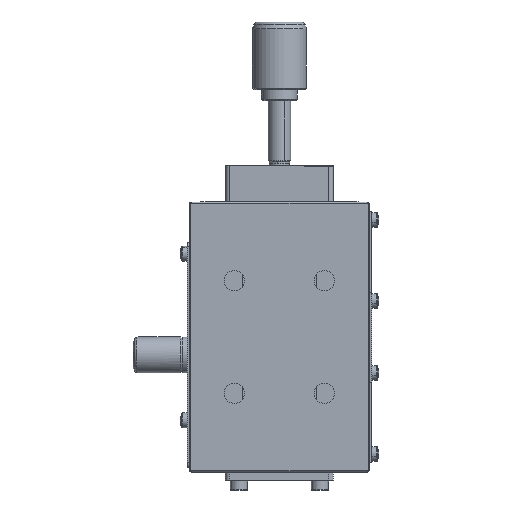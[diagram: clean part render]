
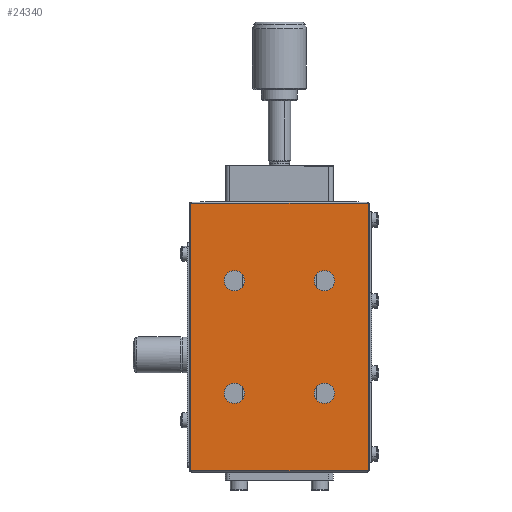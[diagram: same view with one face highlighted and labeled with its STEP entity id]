
A CAD part, front view. The second image highlights one B-rep face of the part: STEP entity #24340.
In plain terms, the highlighted planar face has unit normal (0, -1, 0).
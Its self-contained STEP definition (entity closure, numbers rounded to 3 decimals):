
#725 = VERTEX_POINT ( 'NONE', #20995 ) ;
#978 = CIRCLE ( 'NONE', #20766, 0.2 ) ;
#1143 = DIRECTION ( 'NONE',  ( 0., 0., 1. ) ) ;
#1958 = FACE_OUTER_BOUND ( 'NONE', #34302, .T. ) ;
#2320 = VECTOR ( 'NONE', #16505, 1000. ) ;
#2586 = VERTEX_POINT ( 'NONE', #56136 ) ;
#2602 = DIRECTION ( 'NONE',  ( 0., -1., 0. ) ) ;
#2915 = CARTESIAN_POINT ( 'NONE',  ( 19.5, 8., -29.7 ) ) ;
#2937 = CARTESIAN_POINT ( 'NONE',  ( -19.5, 8., -29.7 ) ) ;
#3017 = AXIS2_PLACEMENT_3D ( 'NONE', #36039, #45908, #16529 ) ;
#4316 = ORIENTED_EDGE ( 'NONE', *, *, #43787, .T. ) ;
#4928 = AXIS2_PLACEMENT_3D ( 'NONE', #33926, #40225, #20686 ) ;
#5195 = CARTESIAN_POINT ( 'NONE',  ( 10., 8., 14.75 ) ) ;
#5544 = DIRECTION ( 'NONE',  ( 0., 1., 0. ) ) ;
#5568 = EDGE_CURVE ( 'NONE', #16622, #46633, #56480, .T. ) ;
#5584 = DIRECTION ( 'NONE',  ( 0., 1., 0. ) ) ;
#5921 = CARTESIAN_POINT ( 'NONE',  ( 19.7, 8., -29.5 ) ) ;
#6090 = DIRECTION ( 'NONE',  ( 0., -1., 0. ) ) ;
#6204 = CARTESIAN_POINT ( 'NONE',  ( -19.5, 8., 29.7 ) ) ;
#6628 = AXIS2_PLACEMENT_3D ( 'NONE', #11464, #45751, #16361 ) ;
#7866 = DIRECTION ( 'NONE',  ( 1., 0., 0. ) ) ;
#8195 = VERTEX_POINT ( 'NONE', #2937 ) ;
#11197 = CARTESIAN_POINT ( 'NONE',  ( -10., 8., -12.5 ) ) ;
#11312 = VERTEX_POINT ( 'NONE', #48381 ) ;
#11464 = CARTESIAN_POINT ( 'NONE',  ( -10., 8., 12.5 ) ) ;
#11699 = CARTESIAN_POINT ( 'NONE',  ( 10., 8., -12.5 ) ) ;
#12575 = EDGE_CURVE ( 'NONE', #2586, #45796, #19249, .T. ) ;
#12941 = EDGE_CURVE ( 'NONE', #45796, #24868, #41472, .T. ) ;
#13370 = CARTESIAN_POINT ( 'NONE',  ( -10., 8., -14.75 ) ) ;
#13407 = CARTESIAN_POINT ( 'NONE',  ( -19.7, 8., -29.5 ) ) ;
#14244 = CARTESIAN_POINT ( 'NONE',  ( 19.5, 8., -29.7 ) ) ;
#14342 = VECTOR ( 'NONE', #7866, 1000. ) ;
#14998 = FACE_BOUND ( 'NONE', #26916, .T. ) ;
#15136 = CARTESIAN_POINT ( 'NONE',  ( 10., 8., 10.25 ) ) ;
#15362 = CARTESIAN_POINT ( 'NONE',  ( -10., 8., 12.5 ) ) ;
#15938 = EDGE_CURVE ( 'NONE', #46962, #28879, #18373, .T. ) ;
#16361 = DIRECTION ( 'NONE',  ( 0., 0., 1. ) ) ;
#16505 = DIRECTION ( 'NONE',  ( -1., 0., 0. ) ) ;
#16529 = DIRECTION ( 'NONE',  ( 0., 0., -1. ) ) ;
#16596 = DIRECTION ( 'NONE',  ( 0., 0., 1. ) ) ;
#16622 = VERTEX_POINT ( 'NONE', #5195 ) ;
#17271 = EDGE_CURVE ( 'NONE', #46633, #16622, #29797, .T. ) ;
#18373 = LINE ( 'NONE', #13407, #29939 ) ;
#18474 = EDGE_CURVE ( 'NONE', #8195, #28954, #41977, .T. ) ;
#18609 = AXIS2_PLACEMENT_3D ( 'NONE', #11699, #45978, #16596 ) ;
#19249 = CIRCLE ( 'NONE', #53918, 0.2 ) ;
#20207 = EDGE_CURVE ( 'NONE', #28263, #725, #21838, .T. ) ;
#20308 = DIRECTION ( 'NONE',  ( 0., 0., 1. ) ) ;
#20686 = DIRECTION ( 'NONE',  ( 0., 0., 1. ) ) ;
#20752 = EDGE_CURVE ( 'NONE', #11312, #26523, #52362, .T. ) ;
#20766 = AXIS2_PLACEMENT_3D ( 'NONE', #35423, #6090, #40395 ) ;
#20995 = CARTESIAN_POINT ( 'NONE',  ( -10., 8., 10.25 ) ) ;
#21491 = ORIENTED_EDGE ( 'NONE', *, *, #43692, .T. ) ;
#21838 = CIRCLE ( 'NONE', #6628, 2.25 ) ;
#22005 = CARTESIAN_POINT ( 'NONE',  ( -19.5, 8., -29.5 ) ) ;
#22291 = CIRCLE ( 'NONE', #29557, 2.25 ) ;
#22626 = DIRECTION ( 'NONE',  ( 0., 0., 1. ) ) ;
#23229 = DIRECTION ( 'NONE',  ( 0., -1., 0. ) ) ;
#23713 = DIRECTION ( 'NONE',  ( 0., 1., 0. ) ) ;
#24340 = ADVANCED_FACE ( 'NONE', ( #57069, #54024, #29624, #14998, #1958 ), #41012, .T. ) ;
#24654 = ORIENTED_EDGE ( 'NONE', *, *, #12575, .T. ) ;
#24671 = ORIENTED_EDGE ( 'NONE', *, *, #20207, .T. ) ;
#24851 = CARTESIAN_POINT ( 'NONE',  ( 19.7, 8., 29.5 ) ) ;
#24868 = VERTEX_POINT ( 'NONE', #6204 ) ;
#25823 = LINE ( 'NONE', #24851, #53323 ) ;
#26523 = VERTEX_POINT ( 'NONE', #13370 ) ;
#26916 = EDGE_LOOP ( 'NONE', ( #24671, #21491 ) ) ;
#26950 = DIRECTION ( 'NONE',  ( 0., 0., -1. ) ) ;
#27977 = ORIENTED_EDGE ( 'NONE', *, *, #5568, .T. ) ;
#28263 = VERTEX_POINT ( 'NONE', #33019 ) ;
#28413 = CARTESIAN_POINT ( 'NONE',  ( -19.7, 8., -29.5 ) ) ;
#28879 = VERTEX_POINT ( 'NONE', #28413 ) ;
#28954 = VERTEX_POINT ( 'NONE', #14244 ) ;
#29557 = AXIS2_PLACEMENT_3D ( 'NONE', #52940, #23713, #57869 ) ;
#29624 = FACE_BOUND ( 'NONE', #55775, .T. ) ;
#29797 = CIRCLE ( 'NONE', #58951, 2.25 ) ;
#29906 = EDGE_CURVE ( 'NONE', #62020, #61833, #22291, .T. ) ;
#29939 = VECTOR ( 'NONE', #52518, 1000. ) ;
#30528 = DIRECTION ( 'NONE',  ( 0., 1., 0. ) ) ;
#30741 = ORIENTED_EDGE ( 'NONE', *, *, #38717, .T. ) ;
#31034 = AXIS2_PLACEMENT_3D ( 'NONE', #11197, #5584, #39883 ) ;
#31311 = CARTESIAN_POINT ( 'NONE',  ( -19.5, 8., 29.7 ) ) ;
#31447 = ORIENTED_EDGE ( 'NONE', *, *, #12941, .T. ) ;
#31967 = CARTESIAN_POINT ( 'NONE',  ( -19.5, 8., 29.5 ) ) ;
#32081 = EDGE_LOOP ( 'NONE', ( #36842, #52497 ) ) ;
#32366 = VERTEX_POINT ( 'NONE', #5921 ) ;
#33019 = CARTESIAN_POINT ( 'NONE',  ( -10., 8., 14.75 ) ) ;
#33926 = CARTESIAN_POINT ( 'NONE',  ( 10., 8., 12.5 ) ) ;
#34053 = ORIENTED_EDGE ( 'NONE', *, *, #18474, .T. ) ;
#34302 = EDGE_LOOP ( 'NONE', ( #44912, #38899, #4316, #34053, #47167, #36772, #24654, #31447 ) ) ;
#34881 = CARTESIAN_POINT ( 'NONE',  ( 10., 8., 12.5 ) ) ;
#35423 = CARTESIAN_POINT ( 'NONE',  ( 19.5, 8., -29.5 ) ) ;
#35506 = AXIS2_PLACEMENT_3D ( 'NONE', #31967, #2602, #36890 ) ;
#36039 = CARTESIAN_POINT ( 'NONE',  ( -20., 8., -30. ) ) ;
#36041 = EDGE_CURVE ( 'NONE', #61833, #62020, #52451, .T. ) ;
#36772 = ORIENTED_EDGE ( 'NONE', *, *, #55475, .T. ) ;
#36842 = ORIENTED_EDGE ( 'NONE', *, *, #29906, .T. ) ;
#36890 = DIRECTION ( 'NONE',  ( 0., 0., -1. ) ) ;
#38342 = EDGE_CURVE ( 'NONE', #24868, #46962, #45579, .T. ) ;
#38717 = EDGE_CURVE ( 'NONE', #26523, #11312, #44792, .T. ) ;
#38899 = ORIENTED_EDGE ( 'NONE', *, *, #15938, .T. ) ;
#39009 = EDGE_LOOP ( 'NONE', ( #27977, #55051 ) ) ;
#39572 = EDGE_CURVE ( 'NONE', #28954, #32366, #978, .T. ) ;
#39840 = DIRECTION ( 'NONE',  ( 0., 0., 1. ) ) ;
#39883 = DIRECTION ( 'NONE',  ( 0., 0., 1. ) ) ;
#40225 = DIRECTION ( 'NONE',  ( 0., 1., 0. ) ) ;
#40395 = DIRECTION ( 'NONE',  ( 0., 0., -1. ) ) ;
#41012 = PLANE ( 'NONE',  #3017 ) ;
#41128 = CARTESIAN_POINT ( 'NONE',  ( 10., 8., -10.25 ) ) ;
#41472 = LINE ( 'NONE', #31311, #2320 ) ;
#41977 = LINE ( 'NONE', #2915, #14342 ) ;
#42706 = AXIS2_PLACEMENT_3D ( 'NONE', #15362, #49589, #20308 ) ;
#43614 = CIRCLE ( 'NONE', #62236, 0.2 ) ;
#43692 = EDGE_CURVE ( 'NONE', #725, #28263, #48141, .T. ) ;
#43787 = EDGE_CURVE ( 'NONE', #28879, #8195, #43614, .T. ) ;
#44792 = CIRCLE ( 'NONE', #31034, 2.25 ) ;
#44912 = ORIENTED_EDGE ( 'NONE', *, *, #38342, .T. ) ;
#45579 = CIRCLE ( 'NONE', #35506, 0.2 ) ;
#45751 = DIRECTION ( 'NONE',  ( 0., 1., 0. ) ) ;
#45796 = VERTEX_POINT ( 'NONE', #53367 ) ;
#45908 = DIRECTION ( 'NONE',  ( 0., -1., 0. ) ) ;
#45978 = DIRECTION ( 'NONE',  ( 0., 1., 0. ) ) ;
#46633 = VERTEX_POINT ( 'NONE', #15136 ) ;
#46962 = VERTEX_POINT ( 'NONE', #52088 ) ;
#47167 = ORIENTED_EDGE ( 'NONE', *, *, #39572, .T. ) ;
#48141 = CIRCLE ( 'NONE', #42706, 2.25 ) ;
#48327 = CARTESIAN_POINT ( 'NONE',  ( 10., 8., -14.75 ) ) ;
#48381 = CARTESIAN_POINT ( 'NONE',  ( -10., 8., -10.25 ) ) ;
#49589 = DIRECTION ( 'NONE',  ( 0., 1., 0. ) ) ;
#51295 = AXIS2_PLACEMENT_3D ( 'NONE', #59721, #30528, #1143 ) ;
#52088 = CARTESIAN_POINT ( 'NONE',  ( -19.7, 8., 29.5 ) ) ;
#52362 = CIRCLE ( 'NONE', #51295, 2.25 ) ;
#52451 = CIRCLE ( 'NONE', #18609, 2.25 ) ;
#52465 = CARTESIAN_POINT ( 'NONE',  ( 19.5, 8., 29.5 ) ) ;
#52497 = ORIENTED_EDGE ( 'NONE', *, *, #36041, .T. ) ;
#52518 = DIRECTION ( 'NONE',  ( 0., 0., -1. ) ) ;
#52940 = CARTESIAN_POINT ( 'NONE',  ( 10., 8., -12.5 ) ) ;
#53323 = VECTOR ( 'NONE', #22626, 1000. ) ;
#53367 = CARTESIAN_POINT ( 'NONE',  ( 19.5, 8., 29.7 ) ) ;
#53596 = ORIENTED_EDGE ( 'NONE', *, *, #20752, .T. ) ;
#53918 = AXIS2_PLACEMENT_3D ( 'NONE', #52465, #23229, #57380 ) ;
#54024 = FACE_BOUND ( 'NONE', #32081, .T. ) ;
#55051 = ORIENTED_EDGE ( 'NONE', *, *, #17271, .T. ) ;
#55475 = EDGE_CURVE ( 'NONE', #32366, #2586, #25823, .T. ) ;
#55775 = EDGE_LOOP ( 'NONE', ( #53596, #30741 ) ) ;
#56136 = CARTESIAN_POINT ( 'NONE',  ( 19.7, 8., 29.5 ) ) ;
#56184 = DIRECTION ( 'NONE',  ( 0., -1., 0. ) ) ;
#56480 = CIRCLE ( 'NONE', #4928, 2.25 ) ;
#57069 = FACE_BOUND ( 'NONE', #39009, .T. ) ;
#57380 = DIRECTION ( 'NONE',  ( 0., 0., -1. ) ) ;
#57869 = DIRECTION ( 'NONE',  ( 0., 0., 1. ) ) ;
#58951 = AXIS2_PLACEMENT_3D ( 'NONE', #34881, #5544, #39840 ) ;
#59721 = CARTESIAN_POINT ( 'NONE',  ( -10., 8., -12.5 ) ) ;
#61833 = VERTEX_POINT ( 'NONE', #48327 ) ;
#62020 = VERTEX_POINT ( 'NONE', #41128 ) ;
#62236 = AXIS2_PLACEMENT_3D ( 'NONE', #22005, #56184, #26950 ) ;
